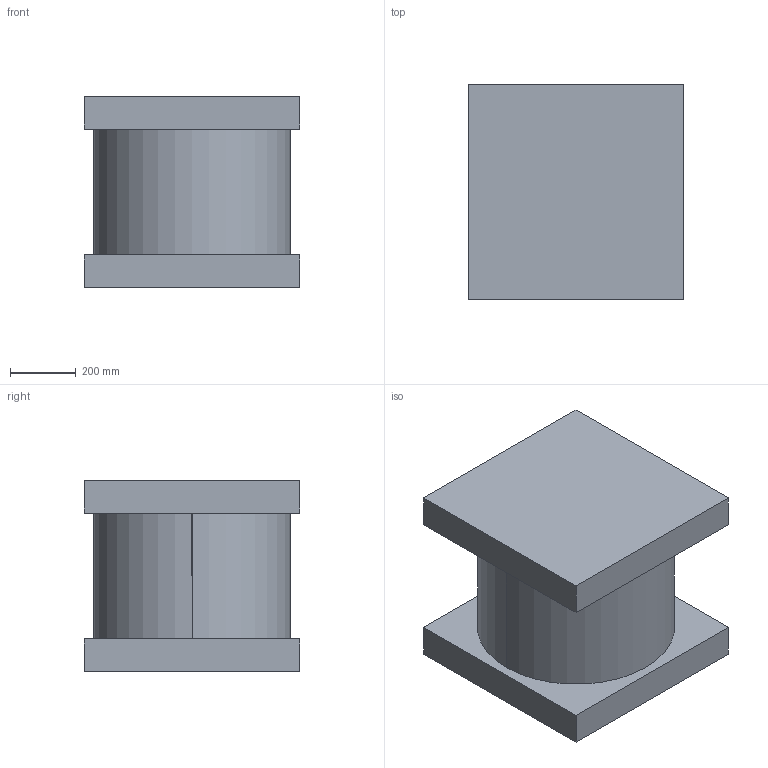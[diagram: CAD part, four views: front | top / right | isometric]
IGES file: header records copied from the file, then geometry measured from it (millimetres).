
Start section:  PTC IGES file: fr_isolator.igs
Global section: file name: fr_isolator.igs; native system: Pro/ENGINEER by Parametric Technology Corporation; preprocessor: 1999260; author: oshatz; organization: Unknown; date: 000922.101513; units: millimetre
Bounding box: 655.4 x 655.4 x 582.95 mm (x, y, z)
Surface area: 2398866.2 mm2 (no closed solid volume)
Topology: 0 solids, 0 shells, 14 faces, 60 edges, 60 vertices
Faces by surface type: bspline 12, revolution 2
